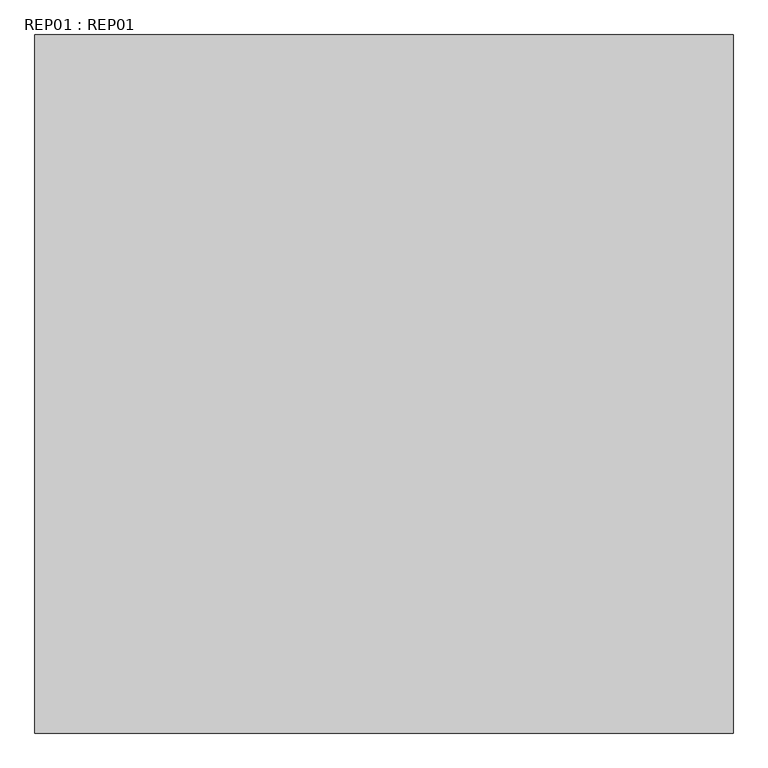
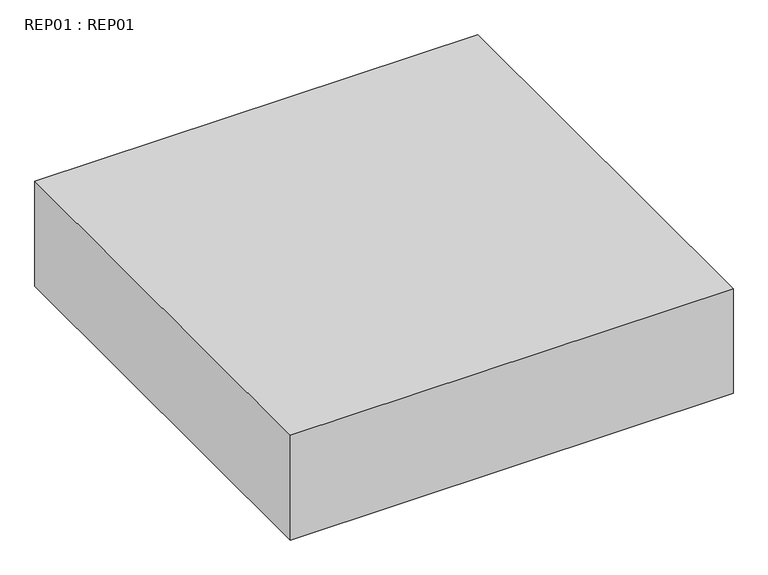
"""IFC4 building model written with IfcOpenShell, lengths in millimetres: proxy geometry, REP01 : REP01."""

from ifc_helpers import new_model, si_unit, origin, origin_with_axes, place, context, project, spatial, polyline, outline, extrude, source, transform, mapped, element, save


def rep01_rep01_cd3ddeb9(model_context):
    return source(origin(), model_context, "Body", "SweptSolid", [
        extrude(outline(polyline([(-12533.3774827, 3496.0579005), (-12533.3774827, 2496.0579005), (-13533.3774827, 2496.0579005), (-13533.3774827, 3496.0579005), (-12533.3774827, 3496.0579005)])), origin_with_axes(), (0.0, 0.0, 1.0), 250.0),
    ])


if __name__ == "__main__":
    model = new_model("IFC4")
    model_context = context("Model", 3, world=origin())
    ifc_project = project(units=[si_unit("LENGTHUNIT", "METRE", prefix="MILLI")], contexts=[model_context])
    site = spatial("IfcSite", under=ifc_project)
    building = spatial("IfcBuilding", under=site)
    placement = place(None, origin())
    rep01_rep01_shape = rep01_rep01_cd3ddeb9(model_context)
    element("IfcBuildingElementProxy", 1, Name="REP01 : REP01", ObjectType="REP01 : REP01", at=placement, inside=building, context=model_context, shape_type="MappedRepresentation", body=[
        mapped(rep01_rep01_shape, transform((0.0, 0.0, 0.0), x_axis=(1.0, 0.0, 0.0), y_axis=(0.0, 1.0, 0.0), z_axis=(0.0, 0.0, 1.0))),
    ])
    save(model, "model.ifc")
